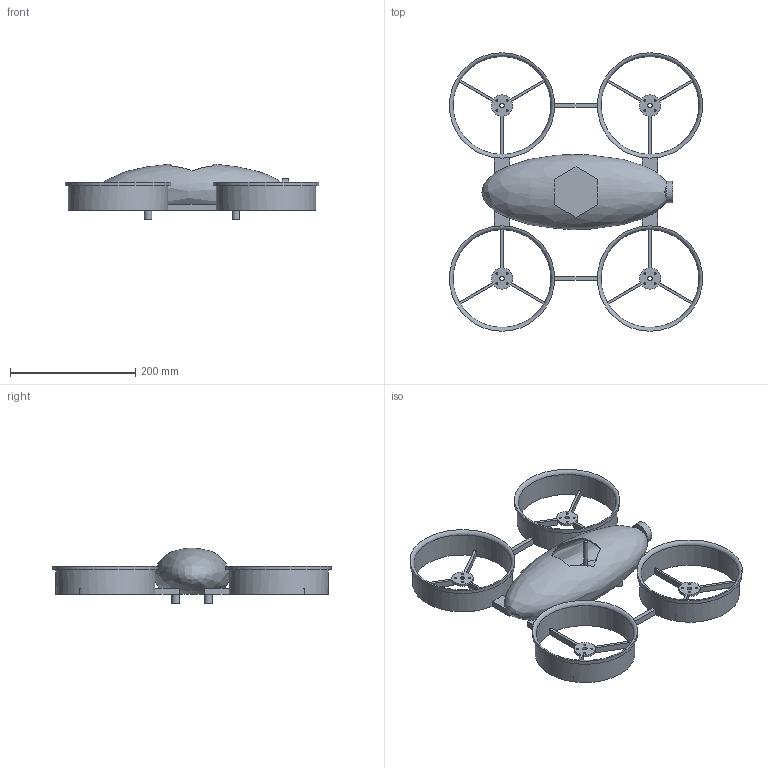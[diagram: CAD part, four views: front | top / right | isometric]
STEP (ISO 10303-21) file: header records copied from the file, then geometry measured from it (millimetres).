
FILE_DESCRIPTION(('FreeCAD Model'),'2;1');
FILE_NAME('Open CASCADE Shape Model','2026-10-26T00:06:28',('FreeCAD'),( 'FreeCAD'),'Open CASCADE STEP processor 8.0','FreeCAD','Unknown');
FILE_SCHEMA(('AUTOMOTIVE_DESIGN { 1 0 10303 214 1 1 1 1 }'));
Length unit declared in the file: millimetre
Products named in the file (1): Open CASCADE STEP translator 8.0 1
Bounding box: 404 x 444 x 88.76 mm (x, y, z)
Volume: 426430 mm3; surface area: 397762.4 mm2
Topology: 1 solids, 1 shells, 164 faces, 521 edges, 352 vertices
Faces by surface type: plane 104, cylinder 54, torus 4, bspline 2
Full cylindrical faces by diameter (mm): 3.2 x16, 6 x4, 7 x4, 12 x4, 22 x1, 34 x1, 156 x4, 159.2 x4, 168 x4
Entity records: 7758 total; most frequent: CARTESIAN_POINT 2953, ORIENTED_EDGE 1042, DIRECTION 955, EDGE_CURVE 521, VERTEX_POINT 352, AXIS2_PLACEMENT_3D 335, LINE 285, VECTOR 285
